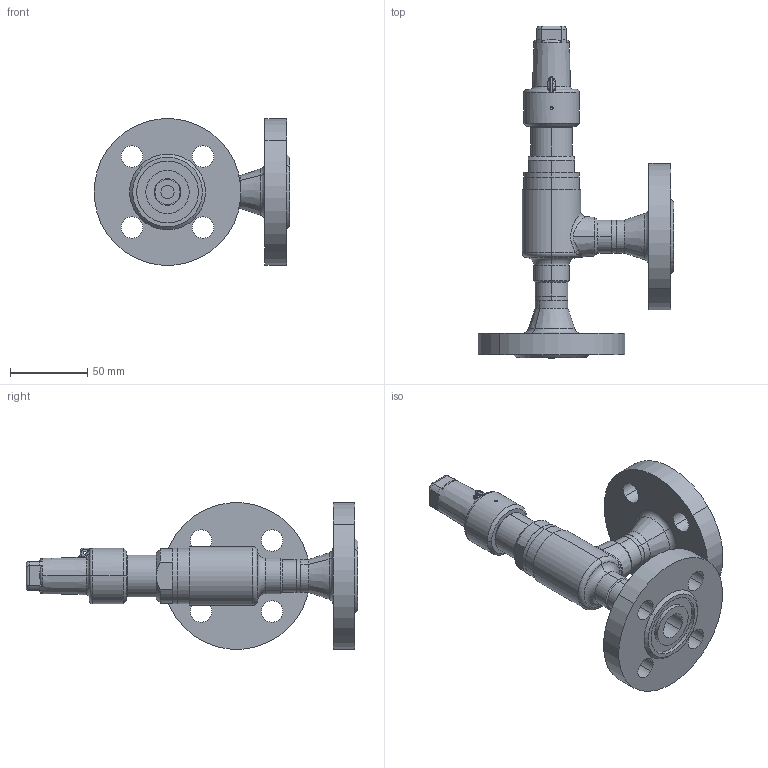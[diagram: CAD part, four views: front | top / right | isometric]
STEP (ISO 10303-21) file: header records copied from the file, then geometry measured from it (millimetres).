
FILE_DESCRIPTION (( 'STEP AP214' ), '1' );
FILE_NAME ('UVA 41220c10-DN15_DIN-FL.STEP', '2009-02-11T08:14:40', ( 'Eckhard Grams' ), ( 'AWP Kälte Klima Armaturen GmbH' ), 'SwSTEP 2.0', 'SolidWorks 2002296', '' );
FILE_SCHEMA (( 'AUTOMOTIVE_DESIGN' ));
Length unit declared in the file: millimetre
Products named in the file (8): UVA 41220c10-DN15_DIN-FL; Geh,kpl 41220e10-DN15_DIN-FL_PS40_Standard; Gehäuse41200E10-DN15_PS40_R1_Standard; Flansch-DIN2635-Nut_PS40_DIN-Flansch-DN015_PS40-Nut; bead Geh.kpl 41220-10-2_Standard; bead Geh.kpl 41220-10-1_Standard; Deckel 44353-08-DN10-15_PS40_Standard; Kappe 36302-10_DN6-15 (M27x1)_Standard
Assembly tree (8 placements, depth 3):
  UVA 41220c10-DN15_DIN-FL
    Geh,kpl 41220e10-DN15_DIN-FL_PS40_Standard
      Gehäuse41200E10-DN15_PS40_R1_Standard
      Flansch-DIN2635-Nut_PS40_DIN-Flansch-DN015_PS40-Nut  x2
      bead Geh.kpl 41220-10-2_Standard
      bead Geh.kpl 41220-10-1_Standard
    Deckel 44353-08-DN10-15_PS40_Standard
    Kappe 36302-10_DN6-15 (M27x1)_Standard
Bounding box: 126.32 x 214.75 x 94.64 mm (x, y, z)
Volume: 290830.5 mm3; surface area: 83610 mm2
Topology: 7 solids, 7 shells, 277 faces, 623 edges, 378 vertices
Faces by surface type: cylinder 113, plane 53, cone 52, torus 32, bspline 27
Entity records: 22415 total; most frequent: CARTESIAN_POINT 16091, DIRECTION 1183, ORIENTED_EDGE 1102, EDGE_CURVE 551, AXIS2_PLACEMENT_3D 509, VERTEX_POINT 332, EDGE_LOOP 283, CIRCLE 279
